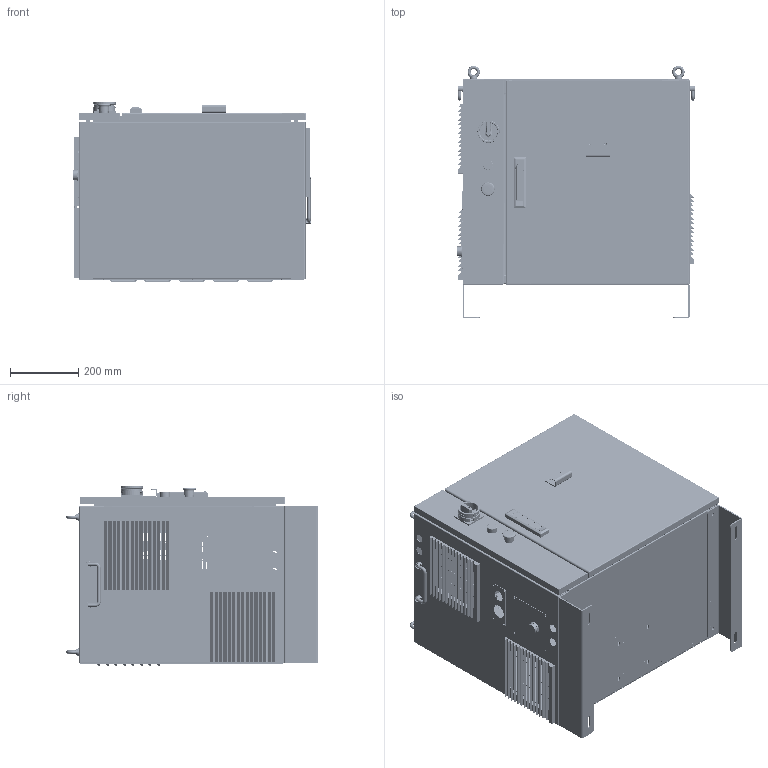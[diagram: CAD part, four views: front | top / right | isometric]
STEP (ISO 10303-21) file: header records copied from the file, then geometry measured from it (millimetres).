
FILE_DESCRIPTION(/* description */ (''),/* implementation_level */ '2;1');
FILE_NAME(/* name */ '新电柜V4.02.stp',/* time_stamp */ '2024-03-25T17:30:30+08:00',/* author */ (''),/* organization */ (''),/* preprocessor_version */ 'ST-DEVELOPER v16.7',/* originating_system */ 'SIEMENS PLM Software NX 12.0',/* authorisation */ '');
FILE_SCHEMA (('AUTOMOTIVE_DESIGN { 1 0 10303 214 3 1 1 1 }'));
Products named in the file (1): 新电柜V4.02
Bounding box: 695.3 x 739.05 x 528.6 mm (x, y, z)
Volume: 6391446.5 mm3; surface area: 5771368.4 mm2
Topology: 88 solids, 92 shells, 7493 faces, 20276 edges, 12742 vertices
Faces by surface type: plane 4720, cylinder 1875, sphere 368, cone 209, bspline 146, torus 114, extrusion 57, revolution 4
Full cylindrical faces by diameter (mm): 1.2 x2, 1.5 x6, 1.6 x2, 2 x20, 2.077 x1, 2.1 x2, 2.5 x16, 2.6 x2, 2.8 x1, 3.077 x1, 3.2 x21, 3.3 x25, 3.5 x2, 3.9 x4, 4 x1, 4.1 x8, 4.2 x20, 4.5 x8, 5 x22, 5.5 x6, 6 x14, 6.09 x1, 6.411 x1, 6.5 x5, 6.8 x4, 7 x8, 7.052 x3, 7.5 x5, 8 x23, 8.917 x4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
Entity records: 263265 total; most frequent: CARTESIAN_POINT 60429, ORIENTED_EDGE 38672, DIRECTION 37624, EDGE_CURVE 19336, VECTOR 13580, LINE 13523, VERTEX_POINT 12562, AXIS2_PLACEMENT_3D 12020
